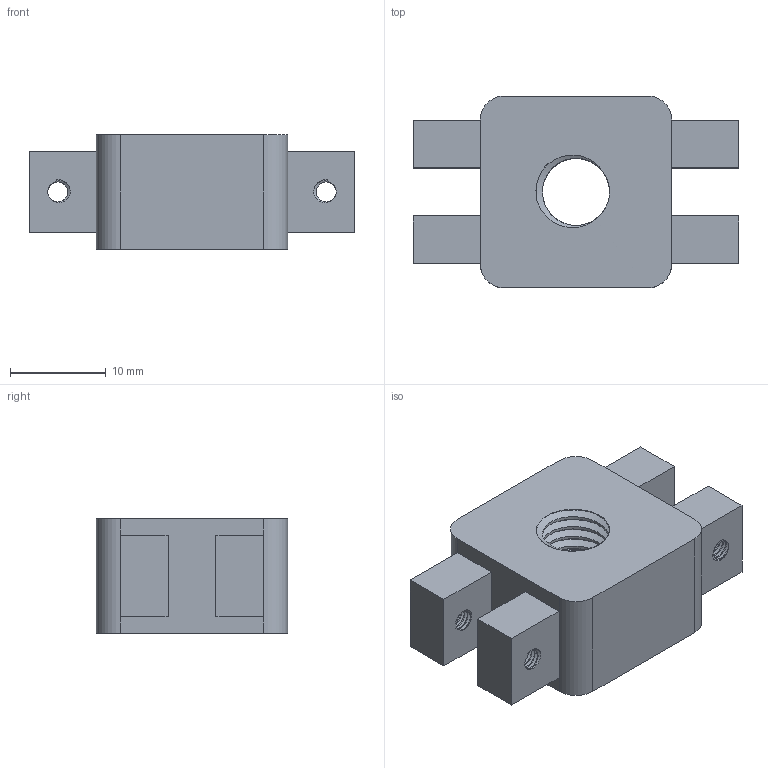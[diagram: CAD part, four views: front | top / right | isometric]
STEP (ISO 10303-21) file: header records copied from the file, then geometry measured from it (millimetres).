
FILE_DESCRIPTION (( 'STEP AP214' ), '1' );
FILE_NAME ('Halterung_an_Gewindestange.STEP', '2026-02-05T09:57:24', ( '' ), ( '' ), 'SwSTEP 2.0', 'SolidWorks 2025', '' );
FILE_SCHEMA (( 'AUTOMOTIVE_DESIGN' ));
Length unit declared in the file: metre
Products named in the file (1): Halterung_an_Gewindestange
Bounding box: 34 x 20 x 12 mm (x, y, z)
Volume: 5296 mm3; surface area: 3033.9 mm2
Topology: 1 solids, 1 shells, 164 faces, 476 edges, 314 vertices
Faces by surface type: cylinder 121, plane 28, bspline 15
Entity records: 24714 total; most frequent: CARTESIAN_POINT 21090, ORIENTED_EDGE 952, DIRECTION 529, EDGE_CURVE 476, VERTEX_POINT 314, VECTOR 181, LINE 181, AXIS2_PLACEMENT_3D 174
